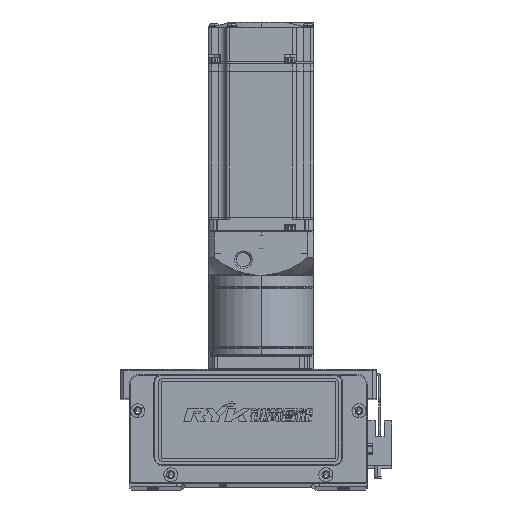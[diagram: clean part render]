
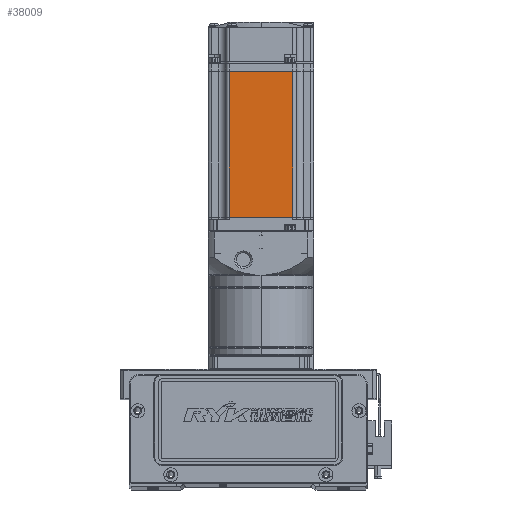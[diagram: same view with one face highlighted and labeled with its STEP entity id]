
A CAD part, top view. The second image highlights one B-rep face of the part: STEP entity #38009.
In plain terms, the highlighted planar face has unit normal (0, 0, 1).
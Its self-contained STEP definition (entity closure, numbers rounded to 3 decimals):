
#1245 = ORIENTED_EDGE ( 'NONE', *, *, #24120, .F. ) ;
#2581 = CARTESIAN_POINT ( 'NONE',  ( -90.45, 0., 30. ) ) ;
#7135 = ORIENTED_EDGE ( 'NONE', *, *, #53390, .T. ) ;
#7634 = VERTEX_POINT ( 'NONE', #48446 ) ;
#8455 = CARTESIAN_POINT ( 'NONE',  ( -6.5, -25., 30. ) ) ;
#8871 = ORIENTED_EDGE ( 'NONE', *, *, #66089, .F. ) ;
#10639 = AXIS2_PLACEMENT_3D ( 'NONE', #8455, #72186, #31269 ) ;
#10877 = CARTESIAN_POINT ( 'NONE',  ( -7.75, -18., 30. ) ) ;
#11912 = LINE ( 'NONE', #20025, #70314 ) ;
#15176 = DIRECTION ( 'NONE',  ( -1., 0., 0. ) ) ;
#18916 = VECTOR ( 'NONE', #15176, 1000. ) ;
#20025 = CARTESIAN_POINT ( 'NONE',  ( -7.75, 0., 30. ) ) ;
#21411 = CARTESIAN_POINT ( 'NONE',  ( -90.45, 18., 30. ) ) ;
#21548 = CARTESIAN_POINT ( 'NONE',  ( -90.45, -18., 30. ) ) ;
#24120 = EDGE_CURVE ( 'NONE', #7634, #70196, #11912, .T. ) ;
#25957 = VECTOR ( 'NONE', #61915, 1000. ) ;
#27783 = LINE ( 'NONE', #38155, #25957 ) ;
#30783 = FACE_OUTER_BOUND ( 'NONE', #45517, .T. ) ;
#31169 = DIRECTION ( 'NONE',  ( 0., -1., 0. ) ) ;
#31269 = DIRECTION ( 'NONE',  ( 1., 0., 0. ) ) ;
#35378 = VECTOR ( 'NONE', #31169, 1000. ) ;
#37739 = LINE ( 'NONE', #66807, #18916 ) ;
#38009 = ADVANCED_FACE ( 'NONE', ( #30783 ), #66071, .T. ) ;
#38155 = CARTESIAN_POINT ( 'NONE',  ( -6.5, 18., 30. ) ) ;
#39425 = VERTEX_POINT ( 'NONE', #21548 ) ;
#45517 = EDGE_LOOP ( 'NONE', ( #1245, #7135, #53564, #8871 ) ) ;
#48446 = CARTESIAN_POINT ( 'NONE',  ( -7.75, 18., 30. ) ) ;
#53390 = EDGE_CURVE ( 'NONE', #7634, #57809, #27783, .T. ) ;
#53564 = ORIENTED_EDGE ( 'NONE', *, *, #68762, .T. ) ;
#57809 = VERTEX_POINT ( 'NONE', #21411 ) ;
#58615 = LINE ( 'NONE', #2581, #35378 ) ;
#61915 = DIRECTION ( 'NONE',  ( -1., 0., 0. ) ) ;
#66071 = PLANE ( 'NONE',  #10639 ) ;
#66089 = EDGE_CURVE ( 'NONE', #70196, #39425, #37739, .T. ) ;
#66807 = CARTESIAN_POINT ( 'NONE',  ( -6.5, -18., 30. ) ) ;
#68762 = EDGE_CURVE ( 'NONE', #57809, #39425, #58615, .T. ) ;
#70196 = VERTEX_POINT ( 'NONE', #10877 ) ;
#70314 = VECTOR ( 'NONE', #70705, 1000. ) ;
#70705 = DIRECTION ( 'NONE',  ( 0., -1., 0. ) ) ;
#72186 = DIRECTION ( 'NONE',  ( 0., 0., 1. ) ) ;
